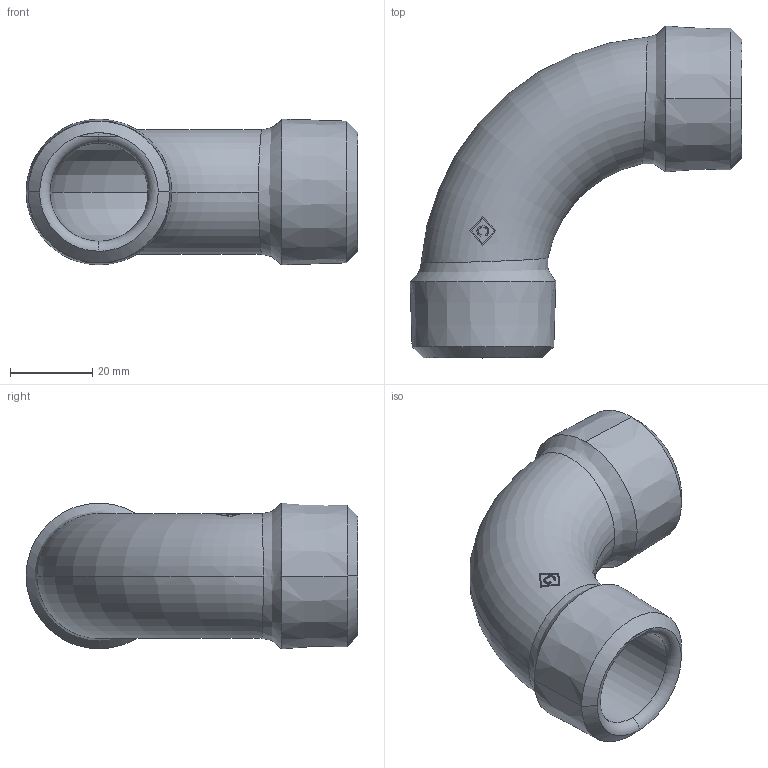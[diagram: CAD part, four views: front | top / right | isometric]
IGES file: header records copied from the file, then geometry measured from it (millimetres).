
Global section: file name: No Iges File Name specified; native system: AutoDesk Inventor R12.0; preprocessor: AutoDesk Inventor Iges Exporter R12.0; date: 20090917.090615; units: millimetre
Bounding box: 80.73 x 80.73 x 35.46 mm (x, y, z)
Volume: 37946 mm3; surface area: 19433.1 mm2
Topology: 1 solids, 1 shells, 45 faces, 117 edges, 76 vertices
Faces by surface type: plane 12, bspline 10, torus 9, cone 8, revolution 6
